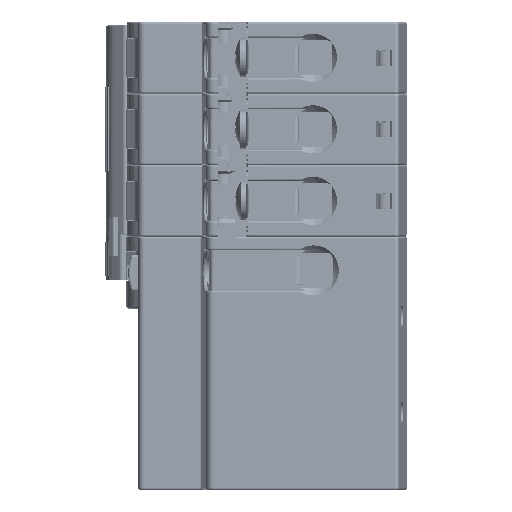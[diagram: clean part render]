
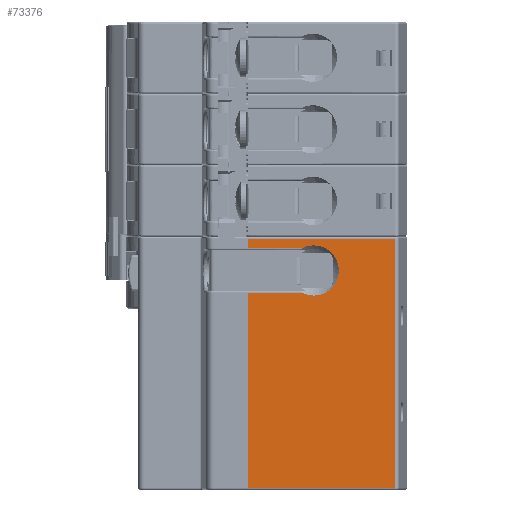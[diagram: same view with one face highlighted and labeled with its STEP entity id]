
A CAD part, left-side view. The second image highlights one B-rep face of the part: STEP entity #73376.
In plain terms, the highlighted planar face has unit normal (-1, 0, 0).
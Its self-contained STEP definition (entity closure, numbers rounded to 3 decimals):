
#3563 = DIRECTION ( 'NONE',  ( 0., -1., 0. ) ) ;
#4194 = EDGE_CURVE ( 'NONE', #145974, #46669, #98468, .T. ) ;
#5183 = CARTESIAN_POINT ( 'NONE',  ( 0., -36.427, -0.5 ) ) ;
#7947 = DIRECTION ( 'NONE',  ( 0., 0., 1. ) ) ;
#8833 = CARTESIAN_POINT ( 'NONE',  ( 0., -13.292, -13.9 ) ) ;
#11330 = LINE ( 'NONE', #57044, #72137 ) ;
#11973 = VERTEX_POINT ( 'NONE', #122475 ) ;
#12569 = ORIENTED_EDGE ( 'NONE', *, *, #4194, .T. ) ;
#15491 = CARTESIAN_POINT ( 'NONE',  ( 0., -13.292, -2.9 ) ) ;
#20272 = ORIENTED_EDGE ( 'NONE', *, *, #40759, .T. ) ;
#21918 = CARTESIAN_POINT ( 'NONE',  ( 0., 0., -63. ) ) ;
#26251 = VERTEX_POINT ( 'NONE', #105204 ) ;
#28222 = DIRECTION ( 'NONE',  ( 0., 0., 1. ) ) ;
#28704 = CIRCLE ( 'NONE', #76571, 6.245 ) ;
#31631 = VERTEX_POINT ( 'NONE', #171121 ) ;
#36147 = CARTESIAN_POINT ( 'NONE',  ( 0., -36.427, -62.5 ) ) ;
#40629 = ORIENTED_EDGE ( 'NONE', *, *, #119065, .T. ) ;
#40759 = EDGE_CURVE ( 'NONE', #26251, #137790, #102475, .T. ) ;
#46669 = VERTEX_POINT ( 'NONE', #15491 ) ;
#47424 = EDGE_CURVE ( 'NONE', #31631, #77740, #84183, .T. ) ;
#47452 = LINE ( 'NONE', #91242, #117037 ) ;
#49903 = ORIENTED_EDGE ( 'NONE', *, *, #168273, .F. ) ;
#57044 = CARTESIAN_POINT ( 'NONE',  ( 0., 0., -13.9 ) ) ;
#58093 = EDGE_CURVE ( 'NONE', #77740, #26251, #47452, .T. ) ;
#63528 = CARTESIAN_POINT ( 'NONE',  ( 0., -36.427, -62.5 ) ) ;
#72137 = VECTOR ( 'NONE', #154272, 1000. ) ;
#73376 = ADVANCED_FACE ( 'NONE', ( #139125 ), #158286, .T. ) ;
#73649 = VECTOR ( 'NONE', #7947, 1000. ) ;
#75056 = DIRECTION ( 'NONE',  ( -1., 0., 0. ) ) ;
#76529 = VECTOR ( 'NONE', #28222, 1000. ) ;
#76571 = AXIS2_PLACEMENT_3D ( 'NONE', #169990, #86753, #3563 ) ;
#77740 = VERTEX_POINT ( 'NONE', #63528 ) ;
#78068 = DIRECTION ( 'NONE',  ( 0., -1., 0. ) ) ;
#84183 = LINE ( 'NONE', #36147, #116837 ) ;
#84776 = ORIENTED_EDGE ( 'NONE', *, *, #47424, .T. ) ;
#86753 = DIRECTION ( 'NONE',  ( 1., 0., 0. ) ) ;
#90977 = EDGE_CURVE ( 'NONE', #31631, #11973, #146090, .T. ) ;
#91242 = CARTESIAN_POINT ( 'NONE',  ( 0., -36.427, -63. ) ) ;
#93292 = DIRECTION ( 'NONE',  ( 0., -1., 0. ) ) ;
#94082 = VECTOR ( 'NONE', #93292, 1000. ) ;
#97533 = EDGE_LOOP ( 'NONE', ( #49903, #12569, #40629, #164586, #163725, #84776, #139541, #20272 ) ) ;
#98468 = LINE ( 'NONE', #121180, #94082 ) ;
#102430 = CARTESIAN_POINT ( 'NONE',  ( 0., -36.427, -63. ) ) ;
#102475 = LINE ( 'NONE', #5183, #139339 ) ;
#105204 = CARTESIAN_POINT ( 'NONE',  ( 0., -36.427, -0.5 ) ) ;
#111372 = CARTESIAN_POINT ( 'NONE',  ( 0., 0., -63. ) ) ;
#116837 = VECTOR ( 'NONE', #78068, 1000. ) ;
#117037 = VECTOR ( 'NONE', #119166, 1000. ) ;
#119065 = EDGE_CURVE ( 'NONE', #46669, #154628, #28704, .T. ) ;
#119166 = DIRECTION ( 'NONE',  ( 0., 0., 1. ) ) ;
#121180 = CARTESIAN_POINT ( 'NONE',  ( 0., -12.508, -2.9 ) ) ;
#122475 = CARTESIAN_POINT ( 'NONE',  ( 0., 0., -13.9 ) ) ;
#123603 = LINE ( 'NONE', #21918, #73649 ) ;
#133450 = CARTESIAN_POINT ( 'NONE',  ( 0., 0., -0.5 ) ) ;
#137790 = VERTEX_POINT ( 'NONE', #133450 ) ;
#139125 = FACE_OUTER_BOUND ( 'NONE', #97533, .T. ) ;
#139339 = VECTOR ( 'NONE', #157641, 1000. ) ;
#139541 = ORIENTED_EDGE ( 'NONE', *, *, #58093, .T. ) ;
#145974 = VERTEX_POINT ( 'NONE', #151795 ) ;
#146090 = LINE ( 'NONE', #111372, #76529 ) ;
#151795 = CARTESIAN_POINT ( 'NONE',  ( 0., 0., -2.9 ) ) ;
#154272 = DIRECTION ( 'NONE',  ( 0., 1., 0. ) ) ;
#154628 = VERTEX_POINT ( 'NONE', #8833 ) ;
#157641 = DIRECTION ( 'NONE',  ( 0., 1., 0. ) ) ;
#157728 = EDGE_CURVE ( 'NONE', #154628, #11973, #11330, .T. ) ;
#158286 = PLANE ( 'NONE',  #174549 ) ;
#163725 = ORIENTED_EDGE ( 'NONE', *, *, #90977, .F. ) ;
#164586 = ORIENTED_EDGE ( 'NONE', *, *, #157728, .T. ) ;
#168273 = EDGE_CURVE ( 'NONE', #145974, #137790, #123603, .T. ) ;
#169990 = CARTESIAN_POINT ( 'NONE',  ( 0., -16.25, -8.4 ) ) ;
#171121 = CARTESIAN_POINT ( 'NONE',  ( 0., 0., -62.5 ) ) ;
#172276 = DIRECTION ( 'NONE',  ( 0., -1., 0. ) ) ;
#174549 = AXIS2_PLACEMENT_3D ( 'NONE', #102430, #75056, #172276 ) ;
